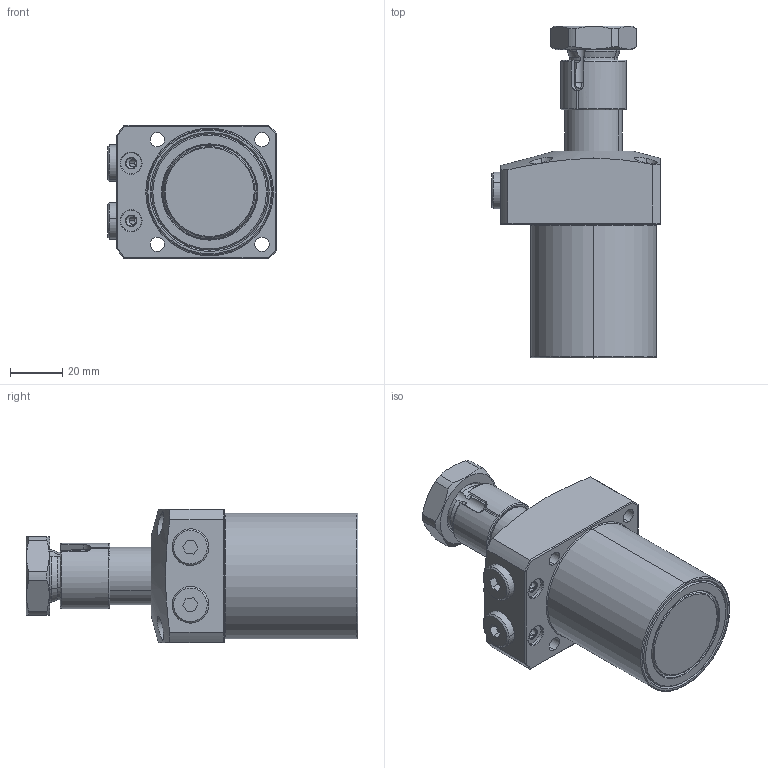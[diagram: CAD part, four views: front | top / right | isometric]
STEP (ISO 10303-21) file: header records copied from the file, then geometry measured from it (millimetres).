
FILE_DESCRIPTION(/* description */ (''),/* implementation_level */ '2;1');
FILE_NAME(/* name */ 'KTRC48-RN60.stp',/* time_stamp */ '2022-11-18T10:29:33+08:00',/* author */ (''),/* organization */ (''),/* preprocessor_version */ 'ST-DEVELOPER v16.7',/* originating_system */ 'SIEMENS PLM Software NX 12.0',/* authorisation */ '');
FILE_SCHEMA (('AP203_CONFIGURATION_CONTROLLED_3D_DESIGN_OF_MECHANICAL_PARTS_AND_ASSEMBLIES_MIM_LF { 1 0 10303 403 2 1 2}'));
Length unit declared in the file: millimetre
Products named in the file (7): KTRC48-RN60-06; KTRC48-RN60-04; KTRC48-RN60-03; KTRC48-RN60-05; KTRC48-RN60-02; KTRC48-RN60-01; LHA0480-CL-Y60_step
Assembly tree (7 placements, depth 2):
  LHA0480-CL-Y60_step
    KTRC48-RN60-01
    KTRC48-RN60-02
    KTRC48-RN60-05  x2
    KTRC48-RN60-03
    KTRC48-RN60-04
    KTRC48-RN60-06
Bounding box: 64.5 x 126.8 x 51 mm (x, y, z)
Volume: 191583.9 mm3; surface area: 35519.6 mm2
Topology: 7 solids, 7 shells, 242 faces, 589 edges, 373 vertices
Faces by surface type: cylinder 89, plane 78, cone 53, torus 20, sphere 2
Entity records: 8269 total; most frequent: CARTESIAN_POINT 2060, DIRECTION 1151, ORIENTED_EDGE 1118, EDGE_CURVE 559, AXIS2_PLACEMENT_3D 471, VERTEX_POINT 355, EDGE_LOOP 256, CIRCLE 234
